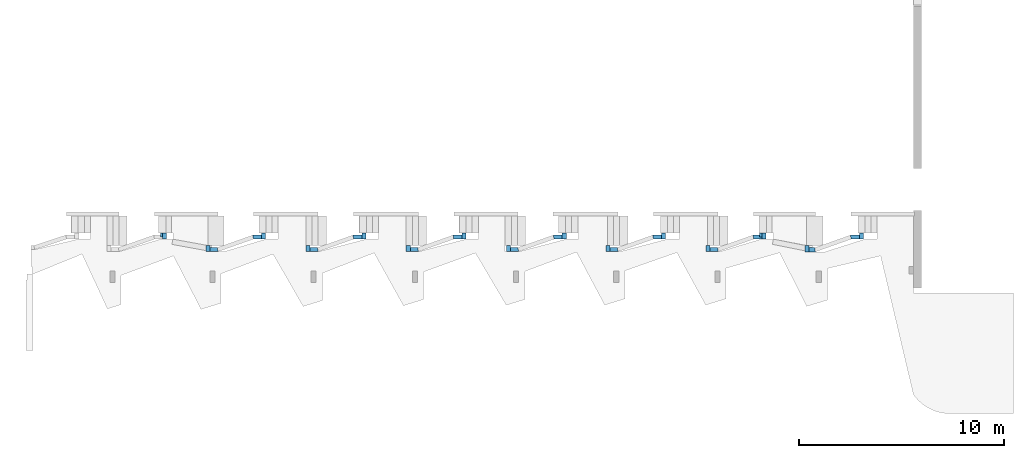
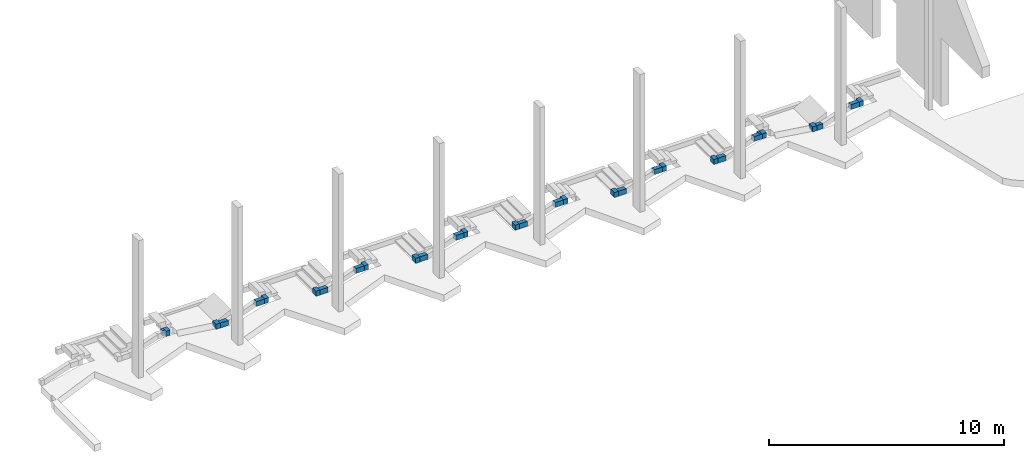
# One storey, part 2 of 8: 32 walls.
"""IFC4 building model written with IfcOpenShell, lengths in metres."""

import ifcopenshell
import ifcopenshell.guid

model = None  # the IFC model being written
_history = None  # IfcOwnerHistory: only IFC2X3 demands one
_inside = {}  # id of a spatial element -> (the spatial element, [elements in it])
_under = {}  # id of a project, library or spatial element -> (it, [spatial elements below it])
_declared = {}  # id of a project -> (the project, [libraries it declares])
_typed = {}  # id of a type object -> (the type object, [elements of that type])
_made_of = {}  # id of a material, layer set ... -> (it, [elements and type objects made of it])


def new_model(schema):
    """Start an empty IFC model of exactly this schema.

    Asked for "IFC4X3", IfcOpenShell would pick the latest addendum, in which some entities
    have other attributes; the version numbers below select the first issue.
    IFC2X3 requires an IfcOwnerHistory on every rooted entity: one is made here for all.
    """
    global model, _history
    if schema == "IFC4X3":
        model = ifcopenshell.file(schema_version=(4, 3, 0, 0))
    else:
        model = ifcopenshell.file(schema=schema)
    _inside.clear()
    _under.clear()
    _declared.clear()
    _typed.clear()
    _made_of.clear()
    _history = None
    if model.schema == "IFC2X3":
        org = make("IfcOrganization", Name="unknown")
        user = make(
            "IfcPersonAndOrganization",
            ThePerson=make("IfcPerson", FamilyName="unknown"),
            TheOrganization=org,
        )
        app = make(
            "IfcApplication",
            ApplicationDeveloper=org,
            Version="unknown",
            ApplicationFullName="unknown",
            ApplicationIdentifier="unknown",
        )
        _history = make(
            "IfcOwnerHistory",
            OwningUser=user,
            OwningApplication=app,
            ChangeAction="ADDED",
            CreationDate=0,
        )
    return model


def make(cls, **values):
    """One entity of the class cls with the attributes given. An attribute that is None is left unset."""
    return model.create_entity(
        cls, **{name: value for name, value in values.items() if value is not None}
    )


def entity(cls, *values):
    """Any entity or typed value of the class cls, its attributes in the order of the schema. None: left unset."""
    e = model.create_entity(cls)
    for i, value in enumerate(values):
        if value is not None:
            e[i] = value
    return e


def rooted(cls, **values):
    """An entity with a GlobalId (a new one), such as an element, a storey or a relation."""
    return make(cls, GlobalId=ifcopenshell.guid.new(), OwnerHistory=_history, **values)


def si_unit(unit_type, name, prefix=None):
    """IfcSIUnit, for example si_unit("LENGTHUNIT", "METRE", prefix="MILLI")."""
    return make("IfcSIUnit", UnitType=unit_type, Prefix=prefix, Name=name)


def converted_unit(unit_type, name, factor, base, dimensions=None, offset=None):
    """IfcConversionBasedUnit, such as the inch: factor (a typed value) times the base unit."""
    return make(
        "IfcConversionBasedUnit"
        if offset is None
        else "IfcConversionBasedUnitWithOffset",
        ConversionOffset=offset,
        Dimensions=None
        if dimensions is None
        else entity("IfcDimensionalExponents", *dimensions),
        UnitType=unit_type,
        Name=name,
        ConversionFactor=make(
            "IfcMeasureWithUnit", ValueComponent=factor, UnitComponent=base
        ),
    )


def derived_unit(unit_type, elements):
    """IfcDerivedUnit: a product of units, each with its exponent."""
    return make(
        "IfcDerivedUnit",
        Elements=[
            make("IfcDerivedUnitElement", Unit=unit, Exponent=power)
            for unit, power in elements
        ],
        UnitType=unit_type,
    )


def assignment(units):
    """IfcUnitAssignment: the units of a project."""
    return None if units is None else make("IfcUnitAssignment", Units=units)


def point(xyz):
    """IfcCartesianPoint."""
    return None if xyz is None else make("IfcCartesianPoint", Coordinates=xyz)


def direction(xyz):
    """IfcDirection."""
    return None if xyz is None else make("IfcDirection", DirectionRatios=xyz)


def frame(location, z_axis=None, x_axis=None):
    """IfcAxis2Placement3D, a coordinate frame: its origin and axes. An axis left out is left unset."""
    return make(
        "IfcAxis2Placement3D",
        Location=point(location),
        Axis=direction(z_axis),
        RefDirection=direction(x_axis),
    )


def origin():
    """The frame at (0, 0, 0) with its axes left unset."""
    return frame((0.0, 0.0, 0.0))


def place(relative_to, where):
    """IfcLocalPlacement: puts the frame where relative to a parent placement (None: the world)."""
    return make(
        "IfcLocalPlacement", PlacementRelTo=relative_to, RelativePlacement=where
    )


def context(
    kind, dimensions, precision=None, world=None, true_north=None, identifier=None
):
    """IfcGeometricRepresentationContext, for example the 3D "Model" context."""
    return make(
        "IfcGeometricRepresentationContext",
        ContextIdentifier=identifier,
        ContextType=kind,
        CoordinateSpaceDimension=dimensions,
        Precision=precision,
        WorldCoordinateSystem=world,
        TrueNorth=true_north,
    )


def subcontext(parent, identifier, kind, view, scale=None):
    """IfcGeometricRepresentationSubContext, for example "Body" below "Model"."""
    return make(
        "IfcGeometricRepresentationSubContext",
        ContextIdentifier=identifier,
        ContextType=kind,
        ParentContext=parent,
        TargetScale=scale,
        TargetView=view,
    )


def project(units=None, contexts=None):
    """IfcProject with its units and contexts."""
    return rooted(
        "IfcProject",
        Name="project",
        RepresentationContexts=contexts,
        UnitsInContext=assignment(units),
    )


def spatial(cls, under=None, at=None, **own):
    """A site, building, storey or space (cls), placed at a placement, below another one or the project."""
    s = rooted(cls, ObjectPlacement=at, **own)
    if under is not None:
        _under.setdefault(under.id(), (under, []))[1].append(s)
    return s


def point_list(points):
    """IfcCartesianPointList2D or 3D."""
    cls = (
        "IfcCartesianPointList2D" if len(points[0]) == 2 else "IfcCartesianPointList3D"
    )
    return make(cls, CoordList=points)


def indexed_curve(points, segments=None, self_intersect=None):
    """IfcIndexedPolyCurve: lines and arcs through numbered points (the first is 1)."""
    return make(
        "IfcIndexedPolyCurve",
        Points=point_list(points),
        Segments=segments,
        SelfIntersect=self_intersect,
    )


def outline(outer, holes=None, kind="AREA"):
    """IfcArbitraryClosedProfileDef: a profile drawn as a closed curve; with holes, ...WithVoids."""
    if holes is None:
        return make("IfcArbitraryClosedProfileDef", ProfileType=kind, OuterCurve=outer)
    return make(
        "IfcArbitraryProfileDefWithVoids",
        ProfileType=kind,
        OuterCurve=outer,
        InnerCurves=holes,
    )


def extrude(swept, where, along, depth):
    """IfcExtrudedAreaSolid: the profile swept, set in the frame where, extruded along a direction by depth."""
    return make(
        "IfcExtrudedAreaSolid",
        SweptArea=swept,
        Position=where,
        ExtrudedDirection=direction(along),
        Depth=depth,
    )


def shape(context_of_items, identifier, shape_type, items):
    """IfcShapeRepresentation: the items that make up one representation, for example the "Body"."""
    return make(
        "IfcShapeRepresentation",
        ContextOfItems=context_of_items,
        RepresentationIdentifier=identifier,
        RepresentationType=shape_type,
        Items=items,
    )


def material(Name=None, Category=None):
    """IfcMaterial."""
    return make("IfcMaterial", Name=Name, Category=Category)


def made_of(thing, what):
    """Note that an element or type object is made of a material, layer set ...; save() writes the relation."""
    if what is not None:
        _made_of.setdefault(what.id(), (what, []))[1].append(thing)
    return thing


def type_object(cls, material=None, **own):
    """A type object (cls), such as IfcWallType, which elements share."""
    return made_of(rooted(cls, **own), material)


def element(
    cls,
    number,
    at=None,
    inside=None,
    cuts=None,
    type_object=None,
    material=None,
    context=None,
    identifier="Body",
    shape_type=None,
    held_by="IfcProductDefinitionShape",
    body=None,
    shapes=None,
    **own,
):
    """One element of the class cls, such as IfcWall. Its Tag is "e" and its number.

    at: its placement. inside: the storey or other place that contains it. cuts: it is an
    opening in that element (IfcRelVoidsElement). A single representation is given by context,
    identifier, shape_type and body (its items); several are given by shapes. held_by: the class
    of the entity that holds the representations. save() writes the other relations.
    """
    e = rooted(cls, Tag="e%d" % number, ObjectPlacement=at, **own)
    if body is not None:
        shapes = [shape(context, identifier, shape_type, body)]
    if shapes is not None:
        e.Representation = make(held_by, Representations=shapes)
    if inside is not None:
        _inside.setdefault(inside.id(), (inside, []))[1].append(e)
    if cuts is not None:
        rooted(
            "IfcRelVoidsElement", RelatingBuildingElement=cuts, RelatedOpeningElement=e
        )
    if type_object is not None:
        _typed.setdefault(type_object.id(), (type_object, []))[1].append(e)
    return made_of(e, material)


def aggregate(whole, parts):
    """IfcRelAggregates: a whole, such as a stair, and the parts it consists of."""
    return rooted("IfcRelAggregates", RelatingObject=whole, RelatedObjects=parts)


def save(model, path):
    """Write the relations noted so far, then the file.

    IfcRelAggregates (storeys below a building ...), IfcRelContainedInSpatialStructure (elements
    in a storey), IfcRelDefinesByType, IfcRelAssociatesMaterial and IfcRelDeclares: one each for
    every whole, place, type object, material and project.
    """
    for whole, parts in _under.values():
        aggregate(whole, parts)
    for where, things in _inside.values():
        rooted(
            "IfcRelContainedInSpatialStructure",
            RelatedElements=things,
            RelatingStructure=where,
        )
    for kind, things in _typed.values():
        rooted("IfcRelDefinesByType", RelatedObjects=things, RelatingType=kind)
    for what, things in _made_of.values():
        rooted("IfcRelAssociatesMaterial", RelatedObjects=things, RelatingMaterial=what)
    for by, libraries in _declared.values():
        rooted("IfcRelDeclares", RelatingContext=by, RelatedDefinitions=libraries)
    model.write(path)


model = new_model("IFC4")

# Units and contexts
model_context = context("Model", 3, precision=1e-05, world=origin(), true_north=direction((6.123031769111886e-17, 1.0)))
body_context = subcontext(model_context, "Body", "Model", "MODEL_VIEW")
ifc_project = project(units=[si_unit("LENGTHUNIT", "METRE"), si_unit("AREAUNIT", "SQUARE_METRE"), si_unit("VOLUMEUNIT", "CUBIC_METRE"), converted_unit("PLANEANGLEUNIT", "DEGREE", entity("IfcRatioMeasure", 0.017453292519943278), si_unit("PLANEANGLEUNIT", "RADIAN"), dimensions=[0, 0, 0, 0, 0, 0, 0]), si_unit("MASSUNIT", "GRAM", prefix="KILO"), derived_unit("MASSDENSITYUNIT", [(si_unit("MASSUNIT", "GRAM", prefix="KILO"), 1), (si_unit("LENGTHUNIT", "METRE"), -3)]), derived_unit("MOMENTOFINERTIAUNIT", [(si_unit("LENGTHUNIT", "METRE"), 4)]), si_unit("TIMEUNIT", "SECOND"), si_unit("FREQUENCYUNIT", "HERTZ"), si_unit("THERMODYNAMICTEMPERATUREUNIT", "DEGREE_CELSIUS"), derived_unit("THERMALTRANSMITTANCEUNIT", [(si_unit("MASSUNIT", "GRAM", prefix="KILO"), 1), (si_unit("THERMODYNAMICTEMPERATUREUNIT", "KELVIN"), -1), (si_unit("TIMEUNIT", "SECOND"), -3)]), derived_unit("VOLUMETRICFLOWRATEUNIT", [(si_unit("LENGTHUNIT", "METRE"), 3), (si_unit("TIMEUNIT", "SECOND"), -1)]), derived_unit("MASSFLOWRATEUNIT", [(si_unit("MASSUNIT", "GRAM", prefix="KILO"), 1), (si_unit("TIMEUNIT", "SECOND"), -1)]), derived_unit("ROTATIONALFREQUENCYUNIT", [(si_unit("TIMEUNIT", "SECOND"), -1)]), si_unit("ELECTRICCURRENTUNIT", "AMPERE"), si_unit("ELECTRICVOLTAGEUNIT", "VOLT"), si_unit("POWERUNIT", "WATT"), si_unit("FORCEUNIT", "NEWTON", prefix="KILO"), si_unit("ILLUMINANCEUNIT", "LUX"), si_unit("LUMINOUSFLUXUNIT", "LUMEN"), si_unit("LUMINOUSINTENSITYUNIT", "CANDELA"), derived_unit("USERDEFINED", [(si_unit("MASSUNIT", "GRAM", prefix="KILO"), -1), (si_unit("LENGTHUNIT", "METRE"), -2), (si_unit("TIMEUNIT", "SECOND"), 3), (si_unit("LUMINOUSFLUXUNIT", "LUMEN"), 1)]), derived_unit("SOUNDPOWERUNIT", [(si_unit("MASSUNIT", "GRAM", prefix="KILO"), 1), (si_unit("LENGTHUNIT", "METRE"), 2), (si_unit("TIMEUNIT", "SECOND"), -3)]), derived_unit("SOUNDPRESSUREUNIT", [(si_unit("MASSUNIT", "GRAM", prefix="KILO"), 1), (si_unit("LENGTHUNIT", "METRE"), -1), (si_unit("TIMEUNIT", "SECOND"), -2)]), derived_unit("LINEARVELOCITYUNIT", [(si_unit("LENGTHUNIT", "METRE"), 1), (si_unit("TIMEUNIT", "SECOND"), -1)]), si_unit("PRESSUREUNIT", "PASCAL"), derived_unit("USERDEFINED", [(si_unit("LENGTHUNIT", "METRE"), -2), (si_unit("MASSUNIT", "GRAM", prefix="KILO"), 1), (si_unit("TIMEUNIT", "SECOND"), -2)]), derived_unit("LINEARFORCEUNIT", [(si_unit("MASSUNIT", "GRAM", prefix="KILO"), 1), (si_unit("LENGTHUNIT", "METRE"), 1), (si_unit("TIMEUNIT", "SECOND"), -2), (si_unit("LENGTHUNIT", "METRE"), -1)]), derived_unit("PLANARFORCEUNIT", [(si_unit("MASSUNIT", "GRAM", prefix="KILO"), 1), (si_unit("LENGTHUNIT", "METRE"), 1), (si_unit("TIMEUNIT", "SECOND"), -2), (si_unit("LENGTHUNIT", "METRE"), -2)])], contexts=[model_context])

# Site, building, storey
site_placement = place(None, origin())
site = spatial("IfcSite", under=ifc_project, at=site_placement, Name="Superficie", CompositionType="ELEMENT")
building_placement = place(site_placement, origin())
building = spatial("IfcBuilding", under=site, at=building_placement, CompositionType="ELEMENT")
storey_placement = place(building_placement, frame((0.0, 0.0, -0.5599999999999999)))
storey = spatial("IfcBuildingStorey", under=building, at=storey_placement, Name="Nivel -1", CompositionType="ELEMENT", Elevation=-0.5599999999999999)

# Walls
ifc_material = material(Name="Muro por defecto", Category="Varios")
wall_type = type_object("IfcWallType", Name="Muro básico:Por defecto - 20 cm", PredefinedType="STANDARD")
wall_1_placement = place(storey_placement, frame((-16.02320098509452, -7.584170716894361, 0.0), z_axis=(0.0, 0.0, 1.0), x_axis=(0.0, 1.0, 0.0)))
element("IfcWall", 1, at=wall_1_placement, inside=storey, type_object=wall_type, material=ifc_material, Name="Muro básico:Por defecto - 20 cm", ObjectType="Muro básico:Por defecto - 20 cm", PredefinedType="NOTDEFINED", context=body_context, shape_type="SweptSolid", body=[
    extrude(outline(indexed_curve([(0.29999999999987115, 0.09999999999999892), (0.0, 0.09999999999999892), (0.0, -0.09999999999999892), (0.29999999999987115, -0.09999999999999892), (0.29999999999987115, 0.09999999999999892)], self_intersect=False)), origin(), (0.0, 0.0, 1.0), 0.25999999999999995),
])
wall_2_placement = place(storey_placement, frame((-16.123200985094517, -7.38417071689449, 0.0), z_axis=(0.0, 0.0, 1.0), x_axis=(-1.0, 0.0, 0.0)))
element("IfcWall", 2, at=wall_2_placement, inside=storey, type_object=wall_type, material=ifc_material, Name="Muro básico:Por defecto - 20 cm", ObjectType="Muro básico:Por defecto - 20 cm", PredefinedType="NOTDEFINED", context=body_context, shape_type="SweptSolid", body=[
    extrude(outline(indexed_curve([(0.10000000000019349, 0.10000000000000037), (-3.6095570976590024e-16, 0.1), (3.6095570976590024e-16, -0.1), (0.1000000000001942, -0.09999999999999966), (0.10000000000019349, 0.10000000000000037)], self_intersect=False)), origin(), (0.0, 0.0, 1.0), 0.25999999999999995),
])
wall_3_placement = place(storey_placement, frame((-13.913428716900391, -7.894140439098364, 0.0), z_axis=(0.0, 0.0, 1.0), x_axis=(0.0, -1.0, 0.0)))
element("IfcWall", 3, at=wall_3_placement, inside=storey, type_object=wall_type, material=ifc_material, Name="Muro básico:Por defecto - 20 cm", ObjectType="Muro básico:Por defecto - 20 cm", PredefinedType="NOTDEFINED", context=body_context, shape_type="SweptSolid", body=[
    extrude(outline(indexed_curve([(0.2999999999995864, 0.09999999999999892), (0.0, 0.09999999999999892), (0.0, -0.09999999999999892), (0.2999999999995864, -0.09999999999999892), (0.2999999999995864, 0.09999999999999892)], self_intersect=False)), origin(), (0.0, 0.0, 1.0), 0.25999999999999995),
])
wall_4_placement = place(storey_placement, frame((-13.813428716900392, -8.09414043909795, 0.0)))
element("IfcWall", 4, at=wall_4_placement, inside=storey, type_object=wall_type, material=ifc_material, Name="Muro básico:Por defecto - 20 cm", ObjectType="Muro básico:Por defecto - 20 cm", PredefinedType="NOTDEFINED", context=body_context, shape_type="SweptSolid", body=[
    extrude(outline(indexed_curve([(0.4000000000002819, -0.09999999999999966), (0.36577257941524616, 0.10000000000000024), (-3.6095570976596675e-16, 0.10000000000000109), (3.609557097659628e-16, -0.1), (0.4000000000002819, -0.09999999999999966)], self_intersect=False)), origin(), (0.0, 0.0, 1.0), 0.25999999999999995),
])
wall_5_placement = place(storey_placement, frame((-11.717656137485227, -7.484140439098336, 0.0)))
element("IfcWall", 5, at=wall_5_placement, inside=storey, type_object=wall_type, material=ifc_material, Name="Muro básico:Por defecto - 20 cm", ObjectType="Muro básico:Por defecto - 20 cm", PredefinedType="NOTDEFINED", context=body_context, shape_type="SweptSolid", body=[
    extrude(outline(indexed_curve([(0.43422742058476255, -0.09999999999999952), (0.4342274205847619, 0.1000000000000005), (-3.609557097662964e-16, 0.1), (0.03422742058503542, -0.0999999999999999), (0.43422742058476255, -0.09999999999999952)], self_intersect=False)), origin(), (0.0, 0.0, 1.0), 0.25999999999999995),
])
wall_6_placement = place(storey_placement, frame((-11.183428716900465, -7.584140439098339, 0.0), z_axis=(0.0, 0.0, 1.0), x_axis=(0.0, 1.0, 0.0)))
element("IfcWall", 6, at=wall_6_placement, inside=storey, type_object=wall_type, material=ifc_material, Name="Muro básico:Por defecto - 20 cm", ObjectType="Muro básico:Por defecto - 20 cm", PredefinedType="NOTDEFINED", context=body_context, shape_type="SweptSolid", body=[
    extrude(outline(indexed_curve([(0.2999999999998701, 0.09999999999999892), (0.0, 0.09999999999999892), (0.0, -0.09999999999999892), (0.2999999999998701, -0.09999999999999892), (0.2999999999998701, 0.09999999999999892)], self_intersect=False)), origin(), (0.0, 0.0, 1.0), 0.25999999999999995),
])
wall_7_placement = place(storey_placement, frame((-9.013542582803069, -7.894140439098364, 0.0), z_axis=(0.0, 0.0, 1.0), x_axis=(0.0, -1.0, 0.0)))
element("IfcWall", 7, at=wall_7_placement, inside=storey, type_object=wall_type, material=ifc_material, Name="Muro básico:Por defecto - 20 cm", ObjectType="Muro básico:Por defecto - 20 cm", PredefinedType="NOTDEFINED", context=body_context, shape_type="SweptSolid", body=[
    extrude(outline(indexed_curve([(0.2999999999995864, 0.1), (0.0, 0.1), (0.0, -0.1), (0.2999999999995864, -0.1), (0.2999999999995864, 0.1)], self_intersect=False)), origin(), (0.0, 0.0, 1.0), 0.25999999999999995),
])
wall_8_placement = place(storey_placement, frame((-8.91354258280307, -8.09414043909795, 0.0)))
element("IfcWall", 8, at=wall_8_placement, inside=storey, type_object=wall_type, material=ifc_material, Name="Muro básico:Por defecto - 20 cm", ObjectType="Muro básico:Por defecto - 20 cm", PredefinedType="NOTDEFINED", context=body_context, shape_type="SweptSolid", body=[
    extrude(outline(indexed_curve([(0.40000000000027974, -0.09999999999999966), (0.3657725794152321, 0.10000000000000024), (-3.6095570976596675e-16, 0.10000000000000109), (3.609557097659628e-16, -0.1), (0.40000000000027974, -0.09999999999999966)], self_intersect=False)), origin(), (0.0, 0.0, 1.0), 0.25999999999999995),
])
wall_9_placement = place(storey_placement, frame((-6.8177700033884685, -7.484140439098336, 0.0)))
element("IfcWall", 9, at=wall_9_placement, inside=storey, type_object=wall_type, material=ifc_material, Name="Muro básico:Por defecto - 20 cm", ObjectType="Muro básico:Por defecto - 20 cm", PredefinedType="NOTDEFINED", context=body_context, shape_type="SweptSolid", body=[
    extrude(outline(indexed_curve([(0.4342274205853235, -0.09999999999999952), (0.43422742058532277, 0.1000000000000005), (-3.6095570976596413e-16, 0.1), (0.034227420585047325, -0.0999999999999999), (0.4342274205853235, -0.09999999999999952)], self_intersect=False)), origin(), (0.0, 0.0, 1.0), 0.25999999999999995),
])
wall_10_placement = place(storey_placement, frame((-6.283542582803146, -7.584140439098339, 0.0), z_axis=(0.0, 0.0, 1.0), x_axis=(0.0, 1.0, 0.0)))
element("IfcWall", 10, at=wall_10_placement, inside=storey, type_object=wall_type, material=ifc_material, Name="Muro básico:Por defecto - 20 cm", ObjectType="Muro básico:Por defecto - 20 cm", PredefinedType="NOTDEFINED", context=body_context, shape_type="SweptSolid", body=[
    extrude(outline(indexed_curve([(0.2999697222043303, 0.1), (0.0, 0.1), (0.0, -0.1), (0.2999697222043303, -0.1), (0.2999697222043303, 0.1)], self_intersect=False)), origin(), (0.0, 0.0, 1.0), 0.25999999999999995),
])
wall_11_placement = place(storey_placement, frame((-4.113200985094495, -7.894170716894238, 0.0), z_axis=(0.0, 0.0, 1.0), x_axis=(0.0, -1.0, 0.0)))
element("IfcWall", 11, at=wall_11_placement, inside=storey, type_object=wall_type, material=ifc_material, Name="Muro básico:Por defecto - 20 cm", ObjectType="Muro básico:Por defecto - 20 cm", PredefinedType="NOTDEFINED", context=body_context, shape_type="SweptSolid", body=[
    extrude(outline(indexed_curve([(0.30499999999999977, 0.1), (-1.7776787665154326e-16, 0.1), (1.7776787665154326e-16, -0.1), (0.30500000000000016, -0.1), (0.30499999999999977, 0.1)], self_intersect=False)), origin(), (0.0, 0.0, 1.0), 0.25999999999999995),
])
wall_12_placement = place(storey_placement, frame((-4.113200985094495, -7.894170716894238, 0.0), z_axis=(0.0, 0.0, 1.0), x_axis=(0.0, -1.0, 0.0)))
element("IfcWall", 12, at=wall_12_placement, inside=storey, type_object=wall_type, material=ifc_material, Name="Muro básico:Por defecto - 20 cm", ObjectType="Muro básico:Por defecto - 20 cm", PredefinedType="NOTDEFINED", context=body_context, shape_type="SweptSolid", body=[
    extrude(outline(indexed_curve([(0.29996972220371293, 0.1), (-1.804960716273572e-16, 0.1), (1.804960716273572e-16, -0.1), (0.29996972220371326, -0.1), (0.29996972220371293, 0.1)], self_intersect=False)), origin(), (0.0, 0.0, 1.0), 0.25999999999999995),
])
wall_13_placement = place(storey_placement, frame((-4.013200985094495, -8.09414043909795, 0.0)))
element("IfcWall", 13, at=wall_13_placement, inside=storey, type_object=wall_type, material=ifc_material, Name="Muro básico:Por defecto - 20 cm", ObjectType="Muro básico:Por defecto - 20 cm", PredefinedType="NOTDEFINED", context=body_context, shape_type="SweptSolid", body=[
    extrude(outline(indexed_curve([(0.399544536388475, -0.09999999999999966), (0.3653171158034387, 0.10000000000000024), (1.8020364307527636e-16, 0.10000000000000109), (3.612299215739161e-16, -0.1), (0.399544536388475, -0.09999999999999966)], self_intersect=False)), origin(), (0.0, 0.0, 1.0), 0.25999999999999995),
])
wall_14_placement = place(storey_placement, frame((-1.9178838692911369, -7.4841404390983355, 0.0)))
element("IfcWall", 14, at=wall_14_placement, inside=storey, type_object=wall_type, material=ifc_material, Name="Muro básico:Por defecto - 20 cm", ObjectType="Muro básico:Por defecto - 20 cm", PredefinedType="NOTDEFINED", context=body_context, shape_type="SweptSolid", body=[
    extrude(outline(indexed_curve([(0.4342274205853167, -0.09999999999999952), (0.43422742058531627, 0.1000000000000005), (-9.023892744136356e-17, 0.1), (0.03422742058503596, -0.0999999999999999), (0.4342274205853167, -0.09999999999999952)], self_intersect=False)), origin(), (0.0, 0.0, 1.0), 0.25999999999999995),
])
wall_15_placement = place(storey_placement, frame((-1.3836564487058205, -7.584140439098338, 0.0), z_axis=(0.0, 0.0, 1.0), x_axis=(0.0, 1.0, 0.0)))
element("IfcWall", 15, at=wall_15_placement, inside=storey, type_object=wall_type, material=ifc_material, Name="Muro básico:Por defecto - 20 cm", ObjectType="Muro básico:Por defecto - 20 cm", PredefinedType="NOTDEFINED", context=body_context, shape_type="SweptSolid", body=[
    extrude(outline(indexed_curve([(0.2999999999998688, 0.1), (-1.8047785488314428e-16, 0.1), (1.8047785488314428e-16, -0.1), (0.29999999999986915, -0.1), (0.2999999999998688, 0.1)], self_intersect=False)), origin(), (0.0, 0.0, 1.0), 0.25999999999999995),
])
wall_16_placement = place(storey_placement, frame((0.7863435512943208, -7.894140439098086, 0.0), z_axis=(0.0, 0.0, 1.0), x_axis=(0.0, -1.0, 0.0)))
element("IfcWall", 16, at=wall_16_placement, inside=storey, type_object=wall_type, material=ifc_material, Name="Muro básico:Por defecto - 20 cm", ObjectType="Muro básico:Por defecto - 20 cm", PredefinedType="NOTDEFINED", context=body_context, shape_type="SweptSolid", body=[
    extrude(outline(indexed_curve([(0.29999999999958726, 0.1), (-1.804778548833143e-16, 0.1), (1.804778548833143e-16, -0.1), (0.2999999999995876, -0.1), (0.29999999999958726, 0.1)], self_intersect=False)), origin(), (0.0, 0.0, 1.0), 0.25999999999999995),
])
wall_17_placement = place(storey_placement, frame((0.8863435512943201, -8.094140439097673, 0.0)))
element("IfcWall", 17, at=wall_17_placement, inside=storey, type_object=wall_type, material=ifc_material, Name="Muro básico:Por defecto - 20 cm", ObjectType="Muro básico:Por defecto - 20 cm", PredefinedType="NOTDEFINED", context=body_context, shape_type="SweptSolid", body=[
    extrude(outline(indexed_curve([(0.4000000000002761, -0.09999999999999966), (0.3657725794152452, 0.10000000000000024), (4.511946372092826e-17, 0.10000000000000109), (4.963141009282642e-16, -0.1), (0.4000000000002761, -0.09999999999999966)], self_intersect=False)), origin(), (0.0, 0.0, 1.0), 0.25999999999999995),
])
wall_18_placement = place(storey_placement, frame((2.9821161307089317, -7.4841404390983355, 0.0)))
element("IfcWall", 18, at=wall_18_placement, inside=storey, type_object=wall_type, material=ifc_material, Name="Muro básico:Por defecto - 20 cm", ObjectType="Muro básico:Por defecto - 20 cm", PredefinedType="NOTDEFINED", context=body_context, shape_type="SweptSolid", body=[
    extrude(outline(indexed_curve([(0.434227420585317, -0.09999999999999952), (0.4342274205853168, 0.1000000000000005), (1.8047785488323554e-16, 0.1), (0.03422742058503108, -0.0999999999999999), (0.434227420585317, -0.09999999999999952)], self_intersect=False)), origin(), (0.0, 0.0, 1.0), 0.25999999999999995),
])
wall_19_placement = place(storey_placement, frame((3.516343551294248, -7.584140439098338, 0.0), z_axis=(0.0, 0.0, 1.0), x_axis=(0.0, 1.0, 0.0)))
element("IfcWall", 19, at=wall_19_placement, inside=storey, type_object=wall_type, material=ifc_material, Name="Muro básico:Por defecto - 20 cm", ObjectType="Muro básico:Por defecto - 20 cm", PredefinedType="NOTDEFINED", context=body_context, shape_type="SweptSolid", body=[
    extrude(outline(indexed_curve([(0.2999999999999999, 0.09999999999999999), (-1.762902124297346e-16, 0.1), (1.762902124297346e-16, -0.1), (0.3000000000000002, -0.10000000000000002), (0.2999999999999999, 0.09999999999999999)], self_intersect=False)), origin(), (0.0, 0.0, 1.0), 0.25999999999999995),
])
wall_20_placement = place(storey_placement, frame((5.646115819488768, -7.894140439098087, 0.0), z_axis=(0.0, 0.0, 1.0), x_axis=(0.0, -1.0, 0.0)))
element("IfcWall", 20, at=wall_20_placement, inside=storey, type_object=wall_type, material=ifc_material, Name="Muro básico:Por defecto - 20 cm", ObjectType="Muro básico:Por defecto - 20 cm", PredefinedType="NOTDEFINED", context=body_context, shape_type="SweptSolid", body=[
    extrude(outline(indexed_curve([(0.2999999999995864, 0.1), (0.0, 0.1), (0.0, -0.1), (0.2999999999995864, -0.1), (0.2999999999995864, 0.1)], self_intersect=False)), origin(), (0.0, 0.0, 1.0), 0.25999999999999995),
])
wall_21_placement = place(storey_placement, frame((5.746115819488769, -8.094140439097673, 0.0)))
element("IfcWall", 21, at=wall_21_placement, inside=storey, type_object=wall_type, material=ifc_material, Name="Muro básico:Por defecto - 20 cm", ObjectType="Muro básico:Por defecto - 20 cm", PredefinedType="NOTDEFINED", context=body_context, shape_type="SweptSolid", body=[
    extrude(outline(indexed_curve([(0.40000000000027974, -0.09999999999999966), (0.3657725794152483, 0.10000000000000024), (-3.6095570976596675e-16, 0.10000000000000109), (3.609557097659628e-16, -0.1), (0.40000000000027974, -0.09999999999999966)], self_intersect=False)), origin(), (0.0, 0.0, 1.0), 0.25999999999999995),
])
wall_22_placement = place(storey_placement, frame((7.8418883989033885, -7.484140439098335, 0.0)))
element("IfcWall", 22, at=wall_22_placement, inside=storey, type_object=wall_type, material=ifc_material, Name="Muro básico:Por defecto - 20 cm", ObjectType="Muro básico:Por defecto - 20 cm", PredefinedType="NOTDEFINED", context=body_context, shape_type="SweptSolid", body=[
    extrude(outline(indexed_curve([(0.4342274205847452, -0.09999999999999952), (0.43422742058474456, 0.1000000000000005), (-3.6095570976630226e-16, 0.1), (0.03422742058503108, -0.0999999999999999), (0.4342274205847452, -0.09999999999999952)], self_intersect=False)), origin(), (0.0, 0.0, 1.0), 0.25999999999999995),
])
wall_23_placement = place(storey_placement, frame((8.376115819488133, -7.584140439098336, 0.0), z_axis=(0.0, 0.0, 1.0), x_axis=(0.0, 1.0, 0.0)))
element("IfcWall", 23, at=wall_23_placement, inside=storey, type_object=wall_type, material=ifc_material, Name="Muro básico:Por defecto - 20 cm", ObjectType="Muro básico:Por defecto - 20 cm", PredefinedType="NOTDEFINED", context=body_context, shape_type="SweptSolid", body=[
    extrude(outline(indexed_curve([(0.30000000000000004, 0.1), (0.0, 0.1), (0.0, -0.1), (0.30000000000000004, -0.1), (0.30000000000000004, 0.1)], self_intersect=False)), origin(), (0.0, 0.0, 1.0), 0.25999999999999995),
])
wall_24_placement = place(storey_placement, frame((10.546799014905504, -7.894170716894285, 0.0), z_axis=(0.0, 0.0, 1.0), x_axis=(0.0, -1.0, 0.0)))
element("IfcWall", 24, at=wall_24_placement, inside=storey, type_object=wall_type, material=ifc_material, Name="Muro básico:Por defecto - 20 cm", ObjectType="Muro básico:Por defecto - 20 cm", PredefinedType="NOTDEFINED", context=body_context, shape_type="SweptSolid", body=[
    extrude(outline(indexed_curve([(0.3000000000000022, 0.09999999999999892), (0.0, 0.09999999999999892), (0.0, -0.09999999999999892), (0.3000000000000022, -0.09999999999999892), (0.3000000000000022, 0.09999999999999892)], self_intersect=False)), origin(), (0.0, 0.0, 1.0), 0.25999999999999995),
])
wall_25_placement = place(storey_placement, frame((10.646799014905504, -8.094170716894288, 0.0)))
element("IfcWall", 25, at=wall_25_placement, inside=storey, type_object=wall_type, material=ifc_material, Name="Muro básico:Por defecto - 20 cm", ObjectType="Muro básico:Por defecto - 20 cm", PredefinedType="NOTDEFINED", context=body_context, shape_type="SweptSolid", body=[
    extrude(outline(indexed_curve([(0.4000000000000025, -0.09999999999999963), (0.3657747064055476, 0.10000000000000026), (-3.648872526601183e-16, 0.10000000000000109), (3.648872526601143e-16, -0.1), (0.4000000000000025, -0.09999999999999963)], self_intersect=False)), origin(), (0.0, 0.0, 1.0), 0.25999999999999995),
])
wall_26_placement = place(storey_placement, frame((12.74787367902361, -7.482342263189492, 0.0)))
element("IfcWall", 26, at=wall_26_placement, inside=storey, type_object=wall_type, material=ifc_material, Name="Muro básico:Por defecto - 20 cm", ObjectType="Muro básico:Por defecto - 20 cm", PredefinedType="NOTDEFINED", context=body_context, shape_type="SweptSolid", body=[
    extrude(outline(indexed_curve([(0.42812827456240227, -0.09999999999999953), (0.4281282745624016, 0.10000000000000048), (-3.627246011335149e-16, 0.1), (0.03422529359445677, -0.0999999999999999), (0.42812827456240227, -0.09999999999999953)], self_intersect=False)), origin(), (0.0, 0.0, 1.0), 0.25999999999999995),
])
wall_27_placement = place(storey_placement, frame((13.27600195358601, -7.582342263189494, 0.0), z_axis=(0.0, 0.0, 1.0), x_axis=(0.0, 1.0, 0.0)))
element("IfcWall", 27, at=wall_27_placement, inside=storey, type_object=wall_type, material=ifc_material, Name="Muro básico:Por defecto - 20 cm", ObjectType="Muro básico:Por defecto - 20 cm", PredefinedType="NOTDEFINED", context=body_context, shape_type="SweptSolid", body=[
    extrude(outline(indexed_curve([(0.29820182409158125, 0.09999999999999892), (0.0, 0.09999999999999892), (0.0, -0.09999999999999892), (0.29820182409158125, -0.09999999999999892), (0.29820182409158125, 0.09999999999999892)], self_intersect=False)), origin(), (0.0, 0.0, 1.0), 0.25999999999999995),
])
wall_28_placement = place(storey_placement, frame((13.17600195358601, -7.384140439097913, 0.0), z_axis=(0.0, 0.0, 1.0), x_axis=(-1.0, 0.0, 0.0)))
element("IfcWall", 28, at=wall_28_placement, inside=storey, type_object=wall_type, material=ifc_material, Name="Muro básico:Por defecto - 20 cm", ObjectType="Muro básico:Por defecto - 20 cm", PredefinedType="NOTDEFINED", context=body_context, shape_type="SweptSolid", body=[
    extrude(outline(indexed_curve([(0.10000000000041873, 0.10000000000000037), (-3.6095570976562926e-16, 0.1), (3.6095570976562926e-16, -0.1), (0.10000000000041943, -0.09999999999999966), (0.10000000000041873, 0.10000000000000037)], self_intersect=False)), origin(), (0.0, 0.0, 1.0), 0.25999999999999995),
])
wall_29_placement = place(storey_placement, frame((15.396001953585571, -7.904140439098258, 0.0), z_axis=(0.0, 0.0, 1.0), x_axis=(0.0, -1.0, 0.0)))
element("IfcWall", 29, at=wall_29_placement, inside=storey, type_object=wall_type, material=ifc_material, Name="Muro básico:Por defecto - 20 cm", ObjectType="Muro básico:Por defecto - 20 cm", PredefinedType="NOTDEFINED", context=body_context, shape_type="SweptSolid", body=[
    extrude(outline(indexed_curve([(0.2999999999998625, 0.09999999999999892), (0.0, 0.09999999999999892), (0.0, -0.09999999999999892), (0.2999999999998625, -0.09999999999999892), (0.2999999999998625, 0.09999999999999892)], self_intersect=False)), origin(), (0.0, 0.0, 1.0), 0.25999999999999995),
])
wall_30_placement = place(storey_placement, frame((15.49600195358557, -8.10414043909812, 0.0)))
element("IfcWall", 30, at=wall_30_placement, inside=storey, type_object=wall_type, material=ifc_material, Name="Muro básico:Por defecto - 20 cm", ObjectType="Muro básico:Por defecto - 20 cm", PredefinedType="NOTDEFINED", context=body_context, shape_type="SweptSolid", body=[
    extrude(outline(indexed_curve([(0.3000000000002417, -0.10000000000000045), (0.26561842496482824, 0.0999999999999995), (-2.165734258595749e-16, 0.1), (2.165734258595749e-16, -0.1), (0.3000000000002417, -0.10000000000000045)], self_intersect=False)), origin(), (0.0, 0.0, 1.0), 0.25999999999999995),
])
wall_31_placement = place(storey_placement, frame((17.511620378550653, -7.4841404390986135, 0.0)))
element("IfcWall", 31, at=wall_31_placement, inside=storey, type_object=wall_type, material=ifc_material, Name="Muro básico:Por defecto - 20 cm", ObjectType="Muro básico:Por defecto - 20 cm", PredefinedType="NOTDEFINED", context=body_context, shape_type="SweptSolid", body=[
    extrude(outline(indexed_curve([(0.43438157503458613, -0.09999999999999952), (0.4343815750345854, 0.1000000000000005), (-3.609557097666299e-16, 0.1), (0.03438157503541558, -0.0999999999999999), (0.43438157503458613, -0.09999999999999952)], self_intersect=False)), origin(), (0.0, 0.0, 1.0), 0.25999999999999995),
])
wall_32_placement = place(storey_placement, frame((18.046001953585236, -7.584140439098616, 0.0), z_axis=(0.0, 0.0, 1.0), x_axis=(0.0, 1.0, 0.0)))
element("IfcWall", 32, at=wall_32_placement, inside=storey, type_object=wall_type, material=ifc_material, Name="Muro básico:Por defecto - 20 cm", ObjectType="Muro básico:Por defecto - 20 cm", PredefinedType="NOTDEFINED", context=body_context, shape_type="SweptSolid", body=[
    extrude(outline(indexed_curve([(0.30000000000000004, 0.09999999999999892), (0.0, 0.09999999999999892), (0.0, -0.09999999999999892), (0.30000000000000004, -0.09999999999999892), (0.30000000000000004, 0.09999999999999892)], self_intersect=False)), origin(), (0.0, 0.0, 1.0), 0.25999999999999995),
])

save(model, "model.ifc")
